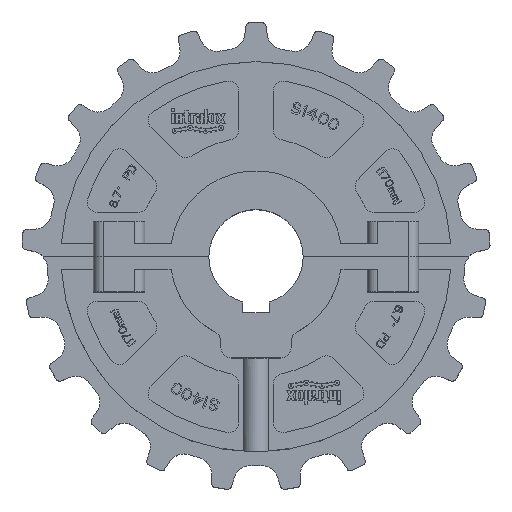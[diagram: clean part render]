
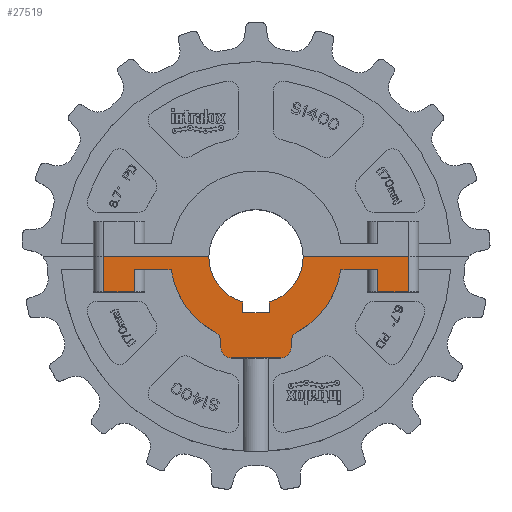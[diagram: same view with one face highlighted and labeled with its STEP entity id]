
A CAD part, top view. The second image highlights one B-rep face of the part: STEP entity #27519.
In plain terms, the highlighted planar face has unit normal (0, 0, 1).
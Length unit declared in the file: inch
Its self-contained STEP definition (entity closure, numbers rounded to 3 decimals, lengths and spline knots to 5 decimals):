
#95=DIRECTION('',(1.,0.,0.));
#96=VECTOR('',#95,0.45);
#97=CARTESIAN_POINT('',(-2.225,-0.515,0.99));
#98=LINE('',#97,#96);
#117=DIRECTION('',(1.,0.,0.));
#118=VECTOR('',#117,0.45);
#119=CARTESIAN_POINT('',(1.775,-0.515,0.99));
#120=LINE('',#119,#118);
#9350=DIRECTION('',(1.,0.,0.));
#9351=VECTOR('',#9350,0.394);
#9352=CARTESIAN_POINT('',(-0.197,-0.81724,0.99));
#9353=LINE('',#9352,#9351);
#9354=DIRECTION('',(0.,1.,0.));
#9355=VECTOR('',#9354,0.157);
#9356=CARTESIAN_POINT('',(0.197,-0.81724,0.99));
#9357=LINE('',#9356,#9355);
#9358=CARTESIAN_POINT('',(0.,0.,0.99));
#9359=DIRECTION('',(0.,0.,1.));
#9360=DIRECTION('',(0.286,-0.958,0.));
#9361=AXIS2_PLACEMENT_3D('',#9358,#9359,#9360);
#9363=DIRECTION('',(-1.,0.,0.));
#9364=VECTOR('',#9363,1.536);
#9365=CARTESIAN_POINT('',(2.225,0.,0.99));
#9366=LINE('',#9365,#9364);
#9367=DIRECTION('',(0.,1.,0.));
#9368=VECTOR('',#9367,0.327);
#9369=CARTESIAN_POINT('',(1.775,-0.515,0.99));
#9370=LINE('',#9369,#9368);
#9371=DIRECTION('',(1.,0.,0.));
#9372=VECTOR('',#9371,0.53416);
#9373=CARTESIAN_POINT('',(1.24084,-0.188,0.99));
#9374=LINE('',#9373,#9372);
#9375=CARTESIAN_POINT('',(0.,0.,0.99));
#9376=DIRECTION('',(0.,0.,-1.));
#9377=DIRECTION('',(0.989,-0.15,0.));
#9378=AXIS2_PLACEMENT_3D('',#9375,#9376,#9377);
#9380=CARTESIAN_POINT('',(0.6625,-1.239,0.99));
#9381=DIRECTION('',(0.,0.,1.));
#9382=DIRECTION('',(-0.472,0.882,0.));
#9383=AXIS2_PLACEMENT_3D('',#9380,#9381,#9382);
#9385=DIRECTION('',(0.,-1.,0.));
#9386=VECTOR('',#9385,0.09);
#9387=CARTESIAN_POINT('',(0.5125,-1.239,0.99));
#9388=LINE('',#9387,#9386);
#9389=CARTESIAN_POINT('',(0.3625,-1.329,0.99));
#9390=DIRECTION('',(0.,0.,-1.));
#9391=DIRECTION('',(1.,0.,0.));
#9392=AXIS2_PLACEMENT_3D('',#9389,#9390,#9391);
#9394=DIRECTION('',(-1.,0.,0.));
#9395=VECTOR('',#9394,0.725);
#9396=CARTESIAN_POINT('',(0.3625,-1.479,0.99));
#9397=LINE('',#9396,#9395);
#9398=CARTESIAN_POINT('',(-0.3625,-1.329,0.99));
#9399=DIRECTION('',(0.,0.,-1.));
#9400=DIRECTION('',(0.,-1.,0.));
#9401=AXIS2_PLACEMENT_3D('',#9398,#9399,#9400);
#9403=DIRECTION('',(0.,1.,0.));
#9404=VECTOR('',#9403,0.09);
#9405=CARTESIAN_POINT('',(-0.5125,-1.329,0.99));
#9406=LINE('',#9405,#9404);
#9407=CARTESIAN_POINT('',(-0.6625,-1.239,0.99));
#9408=DIRECTION('',(0.,0.,1.));
#9409=DIRECTION('',(1.,0.,0.));
#9410=AXIS2_PLACEMENT_3D('',#9407,#9408,#9409);
#9412=CARTESIAN_POINT('',(0.,0.,0.99));
#9413=DIRECTION('',(0.,0.,-1.));
#9414=DIRECTION('',(-0.472,-0.882,0.));
#9415=AXIS2_PLACEMENT_3D('',#9412,#9413,#9414);
#9417=DIRECTION('',(1.,0.,0.));
#9418=VECTOR('',#9417,0.53416);
#9419=CARTESIAN_POINT('',(-1.775,-0.188,0.99));
#9420=LINE('',#9419,#9418);
#9421=DIRECTION('',(0.,1.,0.));
#9422=VECTOR('',#9421,0.515);
#9423=CARTESIAN_POINT('',(-2.225,-0.515,0.99));
#9424=LINE('',#9423,#9422);
#9425=DIRECTION('',(-1.,0.,0.));
#9426=VECTOR('',#9425,1.536);
#9427=CARTESIAN_POINT('',(-0.689,0.,0.99));
#9428=LINE('',#9427,#9426);
#9429=CARTESIAN_POINT('',(0.,0.,0.99));
#9430=DIRECTION('',(0.,0.,1.));
#9431=DIRECTION('',(-1.,0.,0.));
#9432=AXIS2_PLACEMENT_3D('',#9429,#9430,#9431);
#9434=DIRECTION('',(0.,-1.,0.));
#9435=VECTOR('',#9434,0.157);
#9436=CARTESIAN_POINT('',(-0.197,-0.66024,0.99));
#9437=LINE('',#9436,#9435);
#11048=DIRECTION('',(0.,1.,0.));
#11049=VECTOR('',#11048,0.515);
#11050=CARTESIAN_POINT('',(2.225,-0.515,0.99));
#11051=LINE('',#11050,#11049);
#11082=DIRECTION('',(0.,1.,0.));
#11083=VECTOR('',#11082,0.327);
#11084=CARTESIAN_POINT('',(-1.775,-0.515,0.99));
#11085=LINE('',#11084,#11083);
#11227=CARTESIAN_POINT('',(1.775,-0.515,0.99));
#11229=VERTEX_POINT('',#11227);
#11231=CARTESIAN_POINT('',(-2.225,-0.515,0.99));
#11233=VERTEX_POINT('',#11231);
#11324=CARTESIAN_POINT('',(-2.225,0.,0.99));
#11325=VERTEX_POINT('',#11324);
#11338=CARTESIAN_POINT('',(2.225,-0.515,0.99));
#11339=VERTEX_POINT('',#11338);
#11340=CARTESIAN_POINT('',(-1.775,-0.515,0.99));
#11341=VERTEX_POINT('',#11340);
#11344=CARTESIAN_POINT('',(2.225,0.,0.99));
#11345=VERTEX_POINT('',#11344);
#11346=CARTESIAN_POINT('',(-0.5125,-1.239,0.99));
#11347=CARTESIAN_POINT('',(-0.59177,-1.10672,0.99));
#11348=VERTEX_POINT('',#11346);
#11349=VERTEX_POINT('',#11347);
#11350=CARTESIAN_POINT('',(0.59177,-1.10672,0.99));
#11351=CARTESIAN_POINT('',(0.5125,-1.239,0.99));
#11352=VERTEX_POINT('',#11350);
#11353=VERTEX_POINT('',#11351);
#11354=CARTESIAN_POINT('',(0.5125,-1.329,0.99));
#11355=VERTEX_POINT('',#11354);
#11356=CARTESIAN_POINT('',(0.3625,-1.479,0.99));
#11357=VERTEX_POINT('',#11356);
#11358=CARTESIAN_POINT('',(-0.3625,-1.479,0.99));
#11359=VERTEX_POINT('',#11358);
#11360=CARTESIAN_POINT('',(-0.5125,-1.329,0.99));
#11361=VERTEX_POINT('',#11360);
#14311=CARTESIAN_POINT('',(1.775,-0.188,0.99));
#14313=VERTEX_POINT('',#14311);
#14314=CARTESIAN_POINT('',(-1.775,-0.188,0.99));
#14316=VERTEX_POINT('',#14314);
#14318=CARTESIAN_POINT('',(-1.24084,-0.188,0.99));
#14319=VERTEX_POINT('',#14318);
#14320=CARTESIAN_POINT('',(1.24084,-0.188,0.99));
#14321=VERTEX_POINT('',#14320);
#14596=CARTESIAN_POINT('',(-0.197,-0.81724,0.99));
#14597=CARTESIAN_POINT('',(0.197,-0.81724,0.99));
#14598=VERTEX_POINT('',#14596);
#14599=VERTEX_POINT('',#14597);
#14600=CARTESIAN_POINT('',(0.197,-0.66024,0.99));
#14601=VERTEX_POINT('',#14600);
#14602=CARTESIAN_POINT('',(0.689,0.,0.99));
#14603=VERTEX_POINT('',#14602);
#14612=CARTESIAN_POINT('',(-0.689,0.,0.99));
#14613=VERTEX_POINT('',#14612);
#14620=CARTESIAN_POINT('',(-0.197,-0.66024,0.99));
#14621=VERTEX_POINT('',#14620);
#27471=CARTESIAN_POINT('',(0.,0.,0.99));
#27472=DIRECTION('',(0.,0.,-1.));
#27473=DIRECTION('',(-1.,0.,0.));
#27474=AXIS2_PLACEMENT_3D('',#27471,#27472,#27473);
#27475=PLANE('',#27474);
#27477=ORIENTED_EDGE('',*,*,#27476,.T.);
#27479=ORIENTED_EDGE('',*,*,#27478,.T.);
#27481=ORIENTED_EDGE('',*,*,#27480,.T.);
#27482=ORIENTED_EDGE('',*,*,#14662,.F.);
#27484=ORIENTED_EDGE('',*,*,#27483,.F.);
#27485=ORIENTED_EDGE('',*,*,#14784,.F.);
#27487=ORIENTED_EDGE('',*,*,#27486,.T.);
#27488=ORIENTED_EDGE('',*,*,#27234,.F.);
#27490=ORIENTED_EDGE('',*,*,#27489,.T.);
#27492=ORIENTED_EDGE('',*,*,#27491,.T.);
#27494=ORIENTED_EDGE('',*,*,#27493,.T.);
#27496=ORIENTED_EDGE('',*,*,#27495,.T.);
#27498=ORIENTED_EDGE('',*,*,#27497,.T.);
#27500=ORIENTED_EDGE('',*,*,#27499,.T.);
#27502=ORIENTED_EDGE('',*,*,#27501,.T.);
#27504=ORIENTED_EDGE('',*,*,#27503,.T.);
#27506=ORIENTED_EDGE('',*,*,#27505,.T.);
#27507=ORIENTED_EDGE('',*,*,#27253,.F.);
#27509=ORIENTED_EDGE('',*,*,#27508,.F.);
#27510=ORIENTED_EDGE('',*,*,#14758,.F.);
#27511=ORIENTED_EDGE('',*,*,#27464,.T.);
#27512=ORIENTED_EDGE('',*,*,#14684,.F.);
#27514=ORIENTED_EDGE('',*,*,#27513,.T.);
#27516=ORIENTED_EDGE('',*,*,#27515,.T.);
#27517=EDGE_LOOP('',(#27477,#27479,#27481,#27482,#27484,#27485,#27487,#27488,
#27490,#27492,#27494,#27496,#27498,#27500,#27502,#27504,#27506,#27507,#27509,
#27510,#27511,#27512,#27514,#27516));
#27518=FACE_OUTER_BOUND('',#27517,.F.);
#27519=ADVANCED_FACE('',(#27518),#27475,.F.);
#9362=CIRCLE('',#9361,0.689);
#9379=CIRCLE('',#9378,1.255);
#9384=CIRCLE('',#9383,0.15);
#9393=CIRCLE('',#9392,0.15);
#9402=CIRCLE('',#9401,0.15);
#9411=CIRCLE('',#9410,0.15);
#9416=CIRCLE('',#9415,1.255);
#9433=CIRCLE('',#9432,0.689);
#14662=EDGE_CURVE('',#11345,#14603,#9366,.T.);
#14684=EDGE_CURVE('',#14613,#11325,#9428,.T.);
#14758=EDGE_CURVE('',#11233,#11341,#98,.T.);
#14784=EDGE_CURVE('',#11229,#11339,#120,.T.);
#27234=EDGE_CURVE('',#14321,#14313,#9374,.T.);
#27253=EDGE_CURVE('',#14316,#14319,#9420,.T.);
#27464=EDGE_CURVE('',#11233,#11325,#9424,.T.);
#27476=EDGE_CURVE('',#14598,#14599,#9353,.T.);
#27478=EDGE_CURVE('',#14599,#14601,#9357,.T.);
#27480=EDGE_CURVE('',#14601,#14603,#9362,.T.);
#27483=EDGE_CURVE('',#11339,#11345,#11051,.T.);
#27486=EDGE_CURVE('',#11229,#14313,#9370,.T.);
#27489=EDGE_CURVE('',#14321,#11352,#9379,.T.);
#27491=EDGE_CURVE('',#11352,#11353,#9384,.T.);
#27493=EDGE_CURVE('',#11353,#11355,#9388,.T.);
#27495=EDGE_CURVE('',#11355,#11357,#9393,.T.);
#27497=EDGE_CURVE('',#11357,#11359,#9397,.T.);
#27499=EDGE_CURVE('',#11359,#11361,#9402,.T.);
#27501=EDGE_CURVE('',#11361,#11348,#9406,.T.);
#27503=EDGE_CURVE('',#11348,#11349,#9411,.T.);
#27505=EDGE_CURVE('',#11349,#14319,#9416,.T.);
#27508=EDGE_CURVE('',#11341,#14316,#11085,.T.);
#27513=EDGE_CURVE('',#14613,#14621,#9433,.T.);
#27515=EDGE_CURVE('',#14621,#14598,#9437,.T.);
